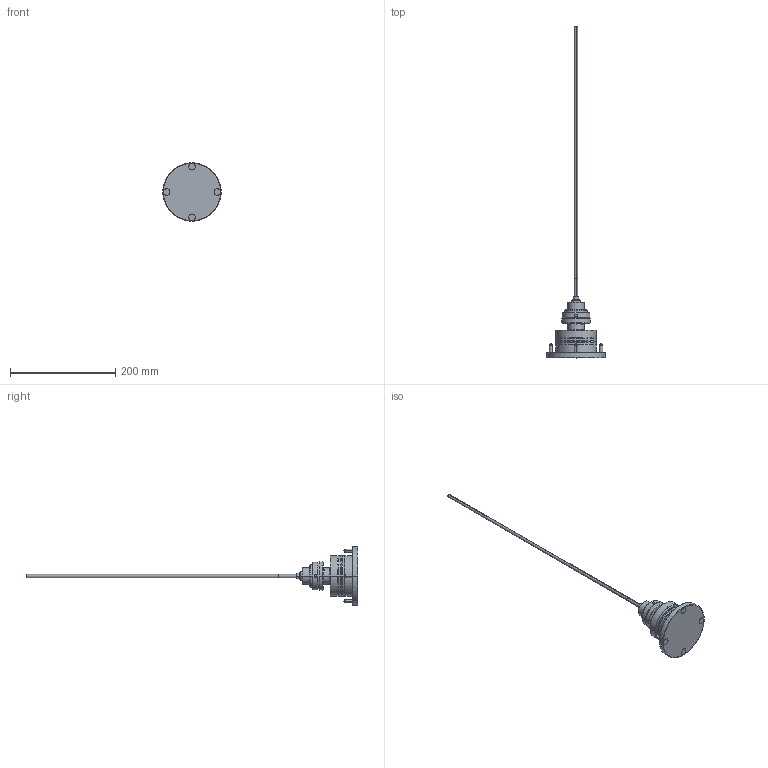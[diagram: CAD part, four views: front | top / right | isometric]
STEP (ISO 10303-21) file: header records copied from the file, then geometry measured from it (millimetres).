
FILE_DESCRIPTION((''),'2;1');
FILE_NAME('E18327-SEMPLIF_ASM','2013-04-19T',('genny.garda'),('Thermoplay S.p.A.'),'PRO/ENGINEER BY PARAMETRIC TECHNOLOGY CORPORATION, 2007390','PRO/ENGINEER BY PARAMETRIC TECHNOLOGY CORPORATION, 2007390','');
FILE_SCHEMA(('CONFIG_CONTROL_DESIGN'));
Length unit declared in the file: millimetre
Products named in the file (3): E18327_SEMPLIFICATO; E06276-600_N; E18327-SEMPLIF_ASM
Assembly tree (2 placements, depth 2):
  E18327-SEMPLIF_ASM
    E18327_SEMPLIFICATO
    E06276-600_N
Bounding box: 111 x 630.55 x 111 mm (x, y, z)
Volume: 286838.9 mm3; surface area: 131642.1 mm2
Topology: 8 solids, 23 shells, 420 faces, 962 edges, 584 vertices
Faces by surface type: cylinder 179, plane 105, cone 94, torus 26, revolution 16
Entity records: 16045 total; most frequent: CARTESIAN_POINT 3075, DIRECTION 2190, ORIENTED_EDGE 1882, PRESENTATION_STYLE_ASSIGNMENT 994, STYLED_ITEM 972, CURVE_STYLE 958, EDGE_CURVE 950, AXIS2_PLACEMENT_3D 913
